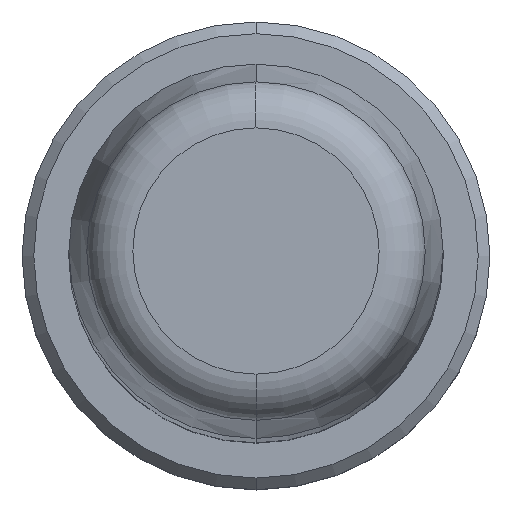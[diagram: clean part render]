
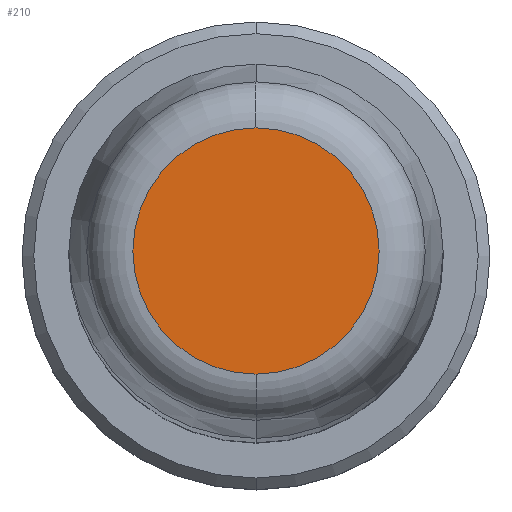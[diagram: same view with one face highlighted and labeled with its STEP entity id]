
A CAD part, top view. The second image highlights one B-rep face of the part: STEP entity #210.
In plain terms, the highlighted planar face has unit normal (0, 0, 1).
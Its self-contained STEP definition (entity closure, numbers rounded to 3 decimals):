
#1=CARTESIAN_POINT('',(0.,0.,125.));
#2=DIRECTION('',(0.,0.,-1.));
#3=DIRECTION('',(0.,-1.,0.));
#4=AXIS2_PLACEMENT_3D('',#1,#2,#3);
#6=CARTESIAN_POINT('',(0.,0.,125.));
#7=DIRECTION('',(0.,0.,-1.));
#8=DIRECTION('',(0.,1.,0.));
#9=AXIS2_PLACEMENT_3D('',#6,#7,#8);
#183=CARTESIAN_POINT('',(0.,-5.264,125.));
#184=CARTESIAN_POINT('',(0.,5.264,125.));
#185=VERTEX_POINT('',#183);
#186=VERTEX_POINT('',#184);
#199=CARTESIAN_POINT('',(0.,0.,125.));
#200=DIRECTION('',(0.,0.,1.));
#201=DIRECTION('',(0.,-1.,0.));
#202=AXIS2_PLACEMENT_3D('',#199,#200,#201);
#203=PLANE('',#202);
#205=ORIENTED_EDGE('',*,*,#204,.T.);
#207=ORIENTED_EDGE('',*,*,#206,.T.);
#208=EDGE_LOOP('',(#205,#207));
#209=FACE_OUTER_BOUND('',#208,.F.);
#210=ADVANCED_FACE('',(#209),#203,.T.);
#5=CIRCLE('',#4,5.264);
#10=CIRCLE('',#9,5.264);
#204=EDGE_CURVE('',#185,#186,#5,.T.);
#206=EDGE_CURVE('',#186,#185,#10,.T.);
